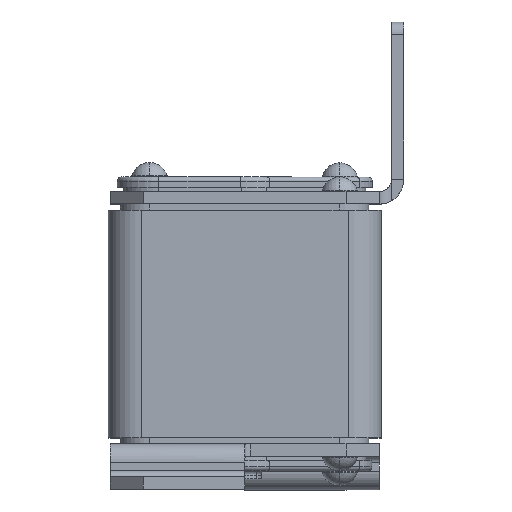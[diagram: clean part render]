
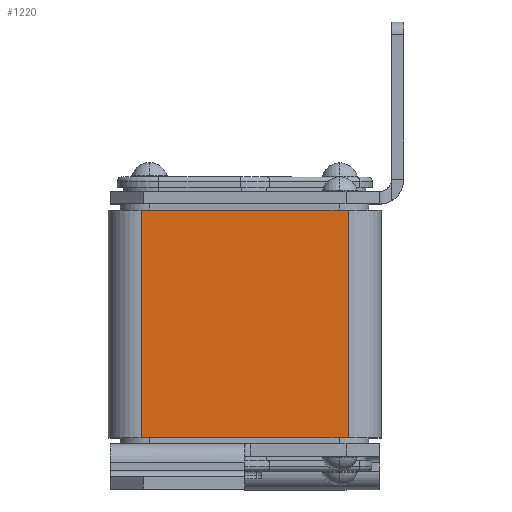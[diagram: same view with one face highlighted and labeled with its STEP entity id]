
A CAD part, top view. The second image highlights one B-rep face of the part: STEP entity #1220.
In plain terms, the highlighted planar face has unit normal (0, 0, 1).
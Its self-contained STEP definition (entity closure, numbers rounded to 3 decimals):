
#552 = CARTESIAN_POINT ( 'NONE',  ( 25., -27.5, 33. ) ) ;
#1220 = ADVANCED_FACE ( 'NONE', ( #10874 ), #8670, .F. ) ;
#1399 = CARTESIAN_POINT ( 'NONE',  ( 25., -27.5, 33. ) ) ;
#1409 = DIRECTION ( 'NONE',  ( 0., 1., 0. ) ) ;
#2263 = VERTEX_POINT ( 'NONE', #15507 ) ;
#2355 = EDGE_LOOP ( 'NONE', ( #13197, #13582, #12027, #4517 ) ) ;
#3020 = CARTESIAN_POINT ( 'NONE',  ( -25., 27.5, 33. ) ) ;
#4517 = ORIENTED_EDGE ( 'NONE', *, *, #8830, .T. ) ;
#5694 = VECTOR ( 'NONE', #1409, 1000. ) ;
#7077 = CARTESIAN_POINT ( 'NONE',  ( 25., 27.5, 33. ) ) ;
#7181 = VECTOR ( 'NONE', #16189, 1000. ) ;
#7710 = LINE ( 'NONE', #1399, #9456 ) ;
#7957 = LINE ( 'NONE', #7077, #10749 ) ;
#8273 = DIRECTION ( 'NONE',  ( -1., 0., 0. ) ) ;
#8421 = EDGE_CURVE ( 'NONE', #12473, #16605, #7957, .T. ) ;
#8670 = PLANE ( 'NONE',  #12616 ) ;
#8830 = EDGE_CURVE ( 'NONE', #2263, #12473, #15922, .T. ) ;
#9077 = EDGE_CURVE ( 'NONE', #17307, #16605, #11208, .T. ) ;
#9456 = VECTOR ( 'NONE', #8273, 1000. ) ;
#9759 = CARTESIAN_POINT ( 'NONE',  ( 25., -27.5, 33. ) ) ;
#10059 = DIRECTION ( 'NONE',  ( 0., 0., -1. ) ) ;
#10666 = CARTESIAN_POINT ( 'NONE',  ( -25., -27.5, 33. ) ) ;
#10749 = VECTOR ( 'NONE', #15312, 1000. ) ;
#10874 = FACE_OUTER_BOUND ( 'NONE', #2355, .T. ) ;
#11208 = LINE ( 'NONE', #14642, #7181 ) ;
#12027 = ORIENTED_EDGE ( 'NONE', *, *, #12946, .F. ) ;
#12473 = VERTEX_POINT ( 'NONE', #16445 ) ;
#12616 = AXIS2_PLACEMENT_3D ( 'NONE', #552, #10059, #14011 ) ;
#12946 = EDGE_CURVE ( 'NONE', #2263, #17307, #7710, .T. ) ;
#13197 = ORIENTED_EDGE ( 'NONE', *, *, #8421, .T. ) ;
#13582 = ORIENTED_EDGE ( 'NONE', *, *, #9077, .F. ) ;
#14011 = DIRECTION ( 'NONE',  ( 1., 0., 0. ) ) ;
#14642 = CARTESIAN_POINT ( 'NONE',  ( -25., -27.5, 33. ) ) ;
#15312 = DIRECTION ( 'NONE',  ( -1., 0., 0. ) ) ;
#15507 = CARTESIAN_POINT ( 'NONE',  ( 25., -27.5, 33. ) ) ;
#15922 = LINE ( 'NONE', #9759, #5694 ) ;
#16189 = DIRECTION ( 'NONE',  ( 0., 1., 0. ) ) ;
#16445 = CARTESIAN_POINT ( 'NONE',  ( 25., 27.5, 33. ) ) ;
#16605 = VERTEX_POINT ( 'NONE', #3020 ) ;
#17307 = VERTEX_POINT ( 'NONE', #10666 ) ;
